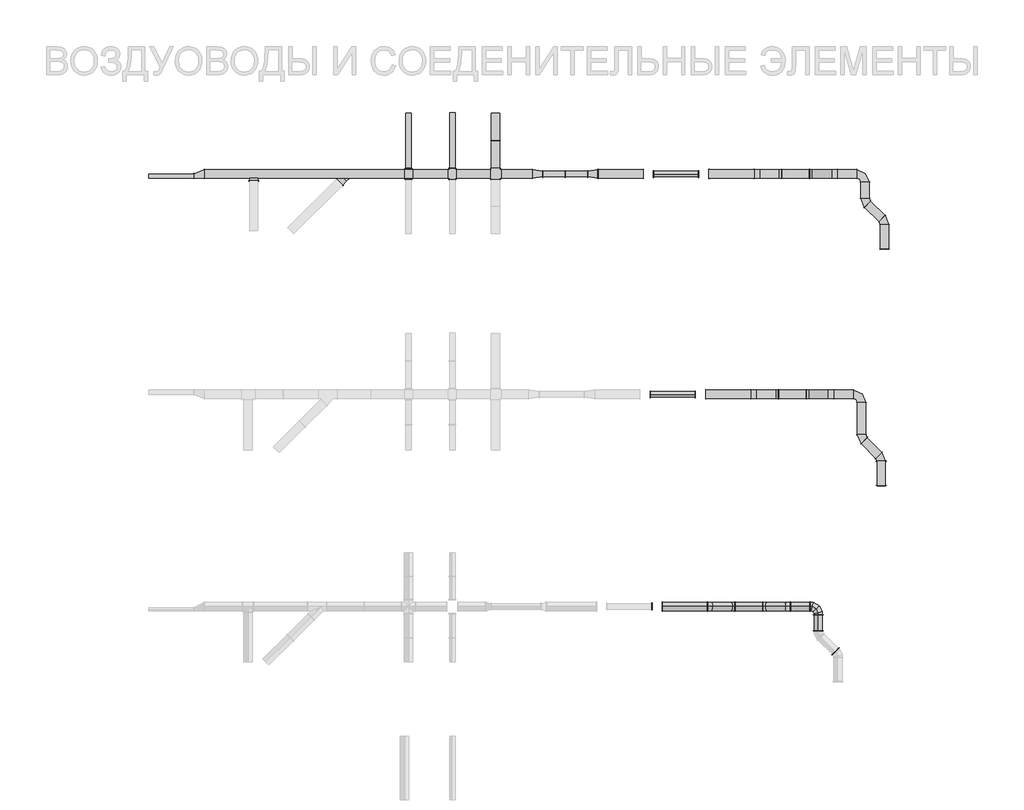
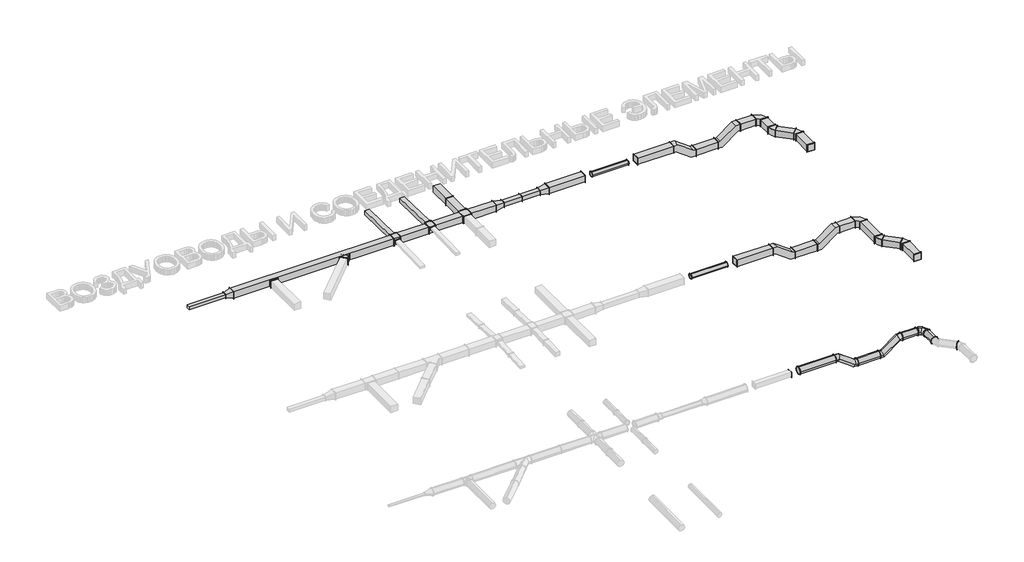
# One storey, part 5 of 8: 84 duct fittings, 30 duct segments.
"""IFC4 building model written with IfcOpenShell, lengths in millimetres."""

from ifc_helpers import new_model, si_unit, point, frame, frame_2d, origin, place, context, project, spatial, polyline, circle_curve, trimmed, segment, composite_curve, outline, extrude, transform, mapped, element, save
from components import duct_fitting_9e6904b6, duct_fitting_1adb4846, duct_fitting_28c7dad8, duct_fitting_2bfe9eff, duct_fitting_69ac1a23, duct_fitting_4595d778, duct_fitting_d50b9d73, duct_fitting_96916f98, duct_fitting_25271141, duct_fitting_49a873c3, duct_fitting_baa2d342, duct_fitting_626d83c1, duct_fitting_618da153, duct_fitting_db13525b, duct_fitting_09fa4591, duct_fitting_5eff2181, duct_fitting_5b7d299d, duct_fitting_46974226, duct_fitting_a26a523e, duct_fitting_8ec2bed2, duct_fitting_57fa9806, duct_fitting_0dfde639, duct_fitting_0a7cc2d9, duct_fitting_0375d318

model = new_model("IFC4")

# Units and contexts
model_context = context("Model", 3, world=origin())
ifc_project = project(units=[si_unit("LENGTHUNIT", "METRE", prefix="MILLI")], contexts=[model_context])

# Site, building, storey
site = spatial("IfcSite", under=ifc_project)
building = spatial("IfcBuilding", under=site)
storey = spatial("IfcBuildingStorey", under=building, Name="Уровень 1", Elevation=0.0)

# Duct fittings
placement = place(None, origin())
duct_fitting_shape = duct_fitting_9e6904b6(model_context)
element("IfcDuctFitting", 1, ObjectType="BL_ПереходникВоздуховодов_Прямоугольный : BL_ПереходникВоздуховодов_Прямоугольный", at=placement, inside=storey, context=model_context, shape_type="MappedRepresentation", body=[
    mapped(duct_fitting_shape, transform((-48040.6087126, 32524.2969276, 1050.0), x_axis=(-1.0, 0.0, 0.0), y_axis=(0.0, -1.0, 0.0), z_axis=(0.0, 0.0, 1.0))),
])
duct_fitting_2_shape = duct_fitting_1adb4846(model_context)
element("IfcDuctFitting", 2, ObjectType="BL_КрестовинаВоздуховодов_Прямоугольная : BL_КрестовинаВоздуховодов_Прямоугольная", at=placement, inside=storey, context=model_context, shape_type="MappedRepresentation", body=[
    mapped(duct_fitting_2_shape, transform((-40674.0705642, 32524.2969276, 1050.0), x_axis=(1.0, 0.0, 0.0), y_axis=(0.0, 1.0, 0.0), z_axis=(0.0, 0.0, 1.0))),
])
duct_fitting_3_shape = duct_fitting_28c7dad8(model_context)
element("IfcDuctFitting", 3, ObjectType="BL_КрестовинаВоздуховодов_Прямоугольная : BL_КрестовинаВоздуховодов_Прямоугольная", at=placement, inside=storey, context=model_context, shape_type="MappedRepresentation", body=[
    mapped(duct_fitting_3_shape, transform((-37531.6491772, 32524.2969276, 1050.0), x_axis=(0.0, 1.0, 0.0), y_axis=(-1.0, 0.0, 0.0), z_axis=(0.0, 0.0, 1.0))),
])
duct_fitting_4_shape = duct_fitting_2bfe9eff(model_context)
element("IfcDuctFitting", 4, ObjectType="BL_КрестовинаВоздуховодов_Прямоугольная : BL_КрестовинаВоздуховодов_Прямоугольная", at=placement, inside=storey, context=model_context, shape_type="MappedRepresentation", body=[
    mapped(duct_fitting_4_shape, transform((-39094.0705642, 32524.2969276, 1050.0), x_axis=(1.0, 0.0, 0.0), y_axis=(0.0, 1.0, 0.0), z_axis=(0.0, 0.0, 1.0))),
])
duct_fitting_5_shape = duct_fitting_69ac1a23(model_context)
element("IfcDuctFitting", 5, ObjectType="BL_ВрезкаВоздуховодов_Прямоугольная : BL_ВрезкаВоздуховодов_Прямоугольная", at=placement, inside=storey, context=model_context, shape_type="MappedRepresentation", body=[
    mapped(duct_fitting_5_shape, transform((-46254.213598, 32374.2969276, 1050.0), x_axis=(0.0, -1.0, 0.0), y_axis=(-1.0, 0.0, 0.0), z_axis=(0.0, 0.0, -1.0))),
])
duct_fitting_6_shape = duct_fitting_4595d778(model_context)
element("IfcDuctFitting", 6, ObjectType="BL_ВрезкаВоздуховодов_Прямоугольная : BL_ВрезкаВоздуховодов_Прямоугольная", at=placement, inside=storey, context=model_context, shape_type="MappedRepresentation", body=[
    mapped(duct_fitting_6_shape, transform((-43017.9107695, 32374.2969276, 1050.0), x_axis=(-0.7071067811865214, -0.7071067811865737, 0.0), y_axis=(-0.7071067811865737, 0.7071067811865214, 0.0), z_axis=(0.0, 0.0, -1.0))),
])
duct_fitting_7_shape = duct_fitting_d50b9d73(model_context)
element("IfcDuctFitting", 7, ObjectType="BL_ПереходникВоздуховодов_Прямоугольный : BL_ПереходникВоздуховодов_Прямоугольный", at=placement, inside=storey, context=model_context, shape_type="MappedRepresentation", body=[
    mapped(duct_fitting_7_shape, transform((-36211.6491772, 32524.2969276, 1050.0), x_axis=(1.0, 0.0, 0.0), y_axis=(0.0, 1.0, 0.0), z_axis=(0.0, 0.0, 1.0))),
])
duct_fitting_8_shape = duct_fitting_96916f98(model_context)
element("IfcDuctFitting", 8, ObjectType="BL_ПереходникВоздуховодов_Прямоугольный : BL_ПереходникВоздуховодов_Прямоугольный", at=placement, inside=storey, context=model_context, shape_type="MappedRepresentation", body=[
    mapped(duct_fitting_8_shape, transform((-34211.6491772, 32524.2969276, 1050.0), x_axis=(1.0, 0.0, 0.0), y_axis=(0.0, 1.0, 0.0), z_axis=(0.0, 0.0, 1.0))),
])
duct_fitting_9_shape = duct_fitting_25271141(model_context)
element("IfcDuctFitting", 9, ObjectType="BL_ФланецВоздуховдов-Двойной_Прямоугольный : BL_ФланецВоздуховдов-Двойной_Прямоугольный", at=placement, inside=storey, context=model_context, shape_type="MappedRepresentation", body=[
    mapped(duct_fitting_9_shape, transform((-37485.9749543, 33724.2969276, 1050.0), x_axis=(0.0, -1.0, 0.0), y_axis=(1.0, 0.0, 0.0), z_axis=(0.0, 0.0, 1.0))),
])
duct_fitting_10_shape = duct_fitting_49a873c3(model_context)
element("IfcDuctFitting", 10, ObjectType="BL_ФланецВоздуховдов-Двойной_Прямоугольный : BL_ФланецВоздуховдов-Двойной_Прямоугольный", at=placement, inside=storey, context=model_context, shape_type="MappedRepresentation", body=[
    mapped(duct_fitting_10_shape, transform((-35024.1491772, 32478.6227046, 1050.0), x_axis=(-1.0, 0.0, 0.0), y_axis=(0.0, -1.0, 0.0), z_axis=(0.0, 0.0, 1.0))),
])
duct_fitting_11_shape = duct_fitting_baa2d342(model_context)
element("IfcDuctFitting", 11, ObjectType="BL_УткаВоздуховодов_Прямоугольная : BL_УткаВоздуховодов_Прямоугольная", at=placement, inside=storey, context=model_context, shape_type="MappedRepresentation", body=[
    mapped(duct_fitting_11_shape, transform((-28211.6491772, 32524.2969276, 1050.0), x_axis=(1.0, 0.0, 0.0), y_axis=(0.0, 1.0, 0.0), z_axis=(0.0, 0.0, 1.0))),
])
element("IfcDuctFitting", 12, ObjectType="BL_УткаВоздуховодов_Прямоугольная : BL_УткаВоздуховодов_Прямоугольная", at=placement, inside=storey, context=model_context, shape_type="MappedRepresentation", body=[
    mapped(duct_fitting_11_shape, transform((-28331.6491772, 24570.0855378, 1050.0), x_axis=(1.0, 0.0, 0.0), y_axis=(0.0, 1.0, 0.0), z_axis=(0.0, 0.0, 1.0))),
])
duct_fitting_12_shape = duct_fitting_626d83c1(model_context)
element("IfcDuctFitting", 13, ObjectType="BL_УткаВоздуховодов_Прямоугольная : BL_УткаВоздуховодов_Прямоугольная", at=placement, inside=storey, context=model_context, shape_type="MappedRepresentation", body=[
    mapped(duct_fitting_12_shape, transform((-25211.6532539, 32524.2969276, 1050.0), x_axis=(-1.0, 0.0, 0.0), y_axis=(0.0, -1.0, 0.0), z_axis=(0.0, 0.0, 1.0))),
])
element("IfcDuctFitting", 14, ObjectType="BL_УткаВоздуховодов_Прямоугольная : BL_УткаВоздуховодов_Прямоугольная", at=placement, inside=storey, context=model_context, shape_type="MappedRepresentation", body=[
    mapped(duct_fitting_12_shape, transform((-25331.6532539, 24570.0855378, 1050.0), x_axis=(-1.0, 0.0, 0.0), y_axis=(0.0, -1.0, 0.0), z_axis=(0.0, 0.0, 1.0))),
])
duct_fitting_13_shape = duct_fitting_618da153(model_context)
element("IfcDuctFitting", 15, ObjectType="BL_ОтводВоздуховодов_Прямоугольный : BL_ОтводВоздуховодов_Прямоугольный", at=placement, inside=storey, context=model_context, shape_type="MappedRepresentation", body=[
    mapped(duct_fitting_13_shape, transform((-24211.6532539, 32524.2969276, 1050.0), x_axis=(0.0, 1.0, 0.0), y_axis=(-1.0, 0.0, 0.0), z_axis=(0.0, 0.0, 1.0))),
])
element("IfcDuctFitting", 16, ObjectType="BL_ОтводВоздуховодов_Прямоугольный : BL_ОтводВоздуховодов_Прямоугольный", at=placement, inside=storey, context=model_context, shape_type="MappedRepresentation", body=[
    mapped(duct_fitting_13_shape, transform((-24331.6532539, 24570.0855378, 1050.0), x_axis=(0.0, 1.0, 0.0), y_axis=(-1.0, 0.0, 0.0), z_axis=(0.0, 0.0, 1.0))),
])
duct_fitting_14_shape = duct_fitting_db13525b(model_context)
element("IfcDuctFitting", 17, ObjectType="BL_ОтводВоздуховодов_Прямоугольный : BL_ОтводВоздуховодов_Прямоугольный", at=placement, inside=storey, context=model_context, shape_type="MappedRepresentation", body=[
    mapped(duct_fitting_14_shape, transform((-24211.6532539, 31524.2969276, 1050.0), x_axis=(0.0, -1.0, 0.0), y_axis=(1.0, 0.0, 0.0), z_axis=(0.0, 0.0, 1.0))),
])
element("IfcDuctFitting", 18, ObjectType="BL_ОтводВоздуховодов_Прямоугольный : BL_ОтводВоздуховодов_Прямоугольный", at=placement, inside=storey, context=model_context, shape_type="MappedRepresentation", body=[
    mapped(duct_fitting_14_shape, transform((-23504.5464727, 30817.1901464, 1050.0), x_axis=(0.0, 1.0, 0.0), y_axis=(-1.0, 0.0, 0.0), z_axis=(0.0, 0.0, 1.0))),
])
element("IfcDuctFitting", 19, ObjectType="BL_ОтводВоздуховодов_Прямоугольный : BL_ОтводВоздуховодов_Прямоугольный", at=placement, inside=storey, context=model_context, shape_type="MappedRepresentation", body=[
    mapped(duct_fitting_14_shape, transform((-24331.6532539, 22988.9723402, 1050.0), x_axis=(0.0, -1.0, 0.0), y_axis=(1.0, 0.0, 0.0), z_axis=(0.0, 0.0, 1.0))),
])
element("IfcDuctFitting", 20, ObjectType="BL_ОтводВоздуховодов_Прямоугольный : BL_ОтводВоздуховодов_Прямоугольный", at=placement, inside=storey, context=model_context, shape_type="MappedRepresentation", body=[
    mapped(duct_fitting_14_shape, transform((-23624.5464727, 22281.865559, 1050.0), x_axis=(0.0, 1.0, 0.0), y_axis=(-1.0, 0.0, 0.0), z_axis=(0.0, 0.0, 1.0))),
])
duct_fitting_15_shape = duct_fitting_09fa4591(model_context)
element("IfcDuctFitting", 21, ObjectType="BL_ЗаглушкаВоздуховодов_Прямоугольная : BL_ЗаглушкаВоздуховодов_Прямоугольная", at=placement, inside=storey, context=model_context, shape_type="MappedRepresentation", body=[
    mapped(duct_fitting_15_shape, transform((-23504.5464727, 29817.1901464, 1050.0), x_axis=(0.0, -1.0, 0.0), y_axis=(1.0, 0.0, 0.0), z_axis=(0.0, 0.0, 1.0))),
])
element("IfcDuctFitting", 22, ObjectType="BL_ЗаглушкаВоздуховодов_Прямоугольная : BL_ЗаглушкаВоздуховодов_Прямоугольная", at=placement, inside=storey, context=model_context, shape_type="MappedRepresentation", body=[
    mapped(duct_fitting_15_shape, transform((-23624.5464727, 21281.865559, 1050.0), x_axis=(0.0, -1.0, 0.0), y_axis=(1.0, 0.0, 0.0), z_axis=(0.0, 0.0, 1.0))),
])
duct_fitting_16_shape = duct_fitting_5eff2181(model_context)
element("IfcDuctFitting", 23, ObjectType="BL_УткаВоздуховодов_Круглая : Фланцевое соединение", at=placement, inside=storey, context=model_context, shape_type="MappedRepresentation", body=[
    mapped(duct_fitting_16_shape, transform((-29894.0705642, 16911.2474283, 1050.0), x_axis=(1.0, 0.0, 0.0), y_axis=(0.0, 1.0, 0.0), z_axis=(0.0, 0.0, 1.0))),
])
duct_fitting_17_shape = duct_fitting_5b7d299d(model_context)
element("IfcDuctFitting", 24, ObjectType="BL_УткаВоздуховодов_Круглая : Фланцевое соединение", at=placement, inside=storey, context=model_context, shape_type="MappedRepresentation", body=[
    mapped(duct_fitting_17_shape, transform((-26894.0705642, 16911.2474283, 1050.0), x_axis=(-1.0, 0.0, 0.0), y_axis=(0.0, -1.0, 0.0), z_axis=(0.0, 0.0, 1.0))),
])
duct_fitting_18_shape = duct_fitting_46974226(model_context)
element("IfcDuctFitting", 25, ObjectType="BL_ОтводВоздуховодов_Круглый : Фланцевое соединение", at=placement, inside=storey, context=model_context, shape_type="MappedRepresentation", body=[
    mapped(duct_fitting_18_shape, transform((-25894.0705642, 16911.2474283, 1050.0), x_axis=(0.0, 1.0, 0.0), y_axis=(-1.0, 0.0, 0.0), z_axis=(0.0, 0.0, 1.0))),
])
duct_fitting_19_shape = duct_fitting_a26a523e(model_context)
element("IfcDuctFitting", 26, ObjectType="BL_ФланецВоздуховдов-Двойной_Круглый_БезКоннекторов : BL_ФланецВоздуховдов-Двойной_Круглый_БезКоннекторов", at=placement, inside=storey, context=model_context, shape_type="MappedRepresentation", body=[
    mapped(duct_fitting_19_shape, transform((-31836.6491772, 32569.9711505, 1050.0), x_axis=(1.0, 0.0, 0.0), y_axis=(0.0, 1.0, 0.0), z_axis=(0.0, 0.0, 1.0))),
])
element("IfcDuctFitting", 27, ObjectType="BL_ФланецВоздуховдов-Двойной_Круглый_БезКоннекторов : BL_ФланецВоздуховдов-Двойной_Круглый_БезКоннекторов", at=placement, inside=storey, context=model_context, shape_type="MappedRepresentation", body=[
    mapped(duct_fitting_19_shape, transform((-30211.6491772, 32478.6227046, 1050.0), x_axis=(-1.0, 0.0, 0.0), y_axis=(0.0, -1.0, 0.0), z_axis=(0.0, 0.0, 1.0))),
])
element("IfcDuctFitting", 28, ObjectType="BL_ФланецВоздуховдов-Двойной_Круглый_БезКоннекторов : BL_ФланецВоздуховдов-Двойной_Круглый_БезКоннекторов", at=placement, inside=storey, context=model_context, shape_type="MappedRepresentation", body=[
    mapped(duct_fitting_19_shape, transform((-31956.6491772, 24615.7597607, 1050.0), x_axis=(1.0, 0.0, 0.0), y_axis=(0.0, 1.0, 0.0), z_axis=(0.0, 0.0, 1.0))),
])
element("IfcDuctFitting", 29, ObjectType="BL_ФланецВоздуховдов-Двойной_Круглый_БезКоннекторов : BL_ФланецВоздуховдов-Двойной_Круглый_БезКоннекторов", at=placement, inside=storey, context=model_context, shape_type="MappedRepresentation", body=[
    mapped(duct_fitting_19_shape, transform((-30331.6491772, 24524.4113148, 1050.0), x_axis=(-1.0, 0.0, 0.0), y_axis=(0.0, -1.0, 0.0), z_axis=(0.0, 0.0, 1.0))),
])
duct_fitting_20_shape = duct_fitting_8ec2bed2(model_context)
element("IfcDuctFitting", 30, ObjectType="BL_ФланецВоздуховдов-Двойной_Круглый_БезКоннекторов : BL_ФланецВоздуховдов-Двойной_Круглый_БезКоннекторов", at=placement, inside=storey, context=model_context, shape_type="MappedRepresentation", body=[
    mapped(duct_fitting_20_shape, transform((-31519.0705642, 16956.9216512, 1050.0), x_axis=(1.0, 0.0, 0.0), y_axis=(0.0, 1.0, 0.0), z_axis=(0.0, 0.0, 1.0))),
])
element("IfcDuctFitting", 31, ObjectType="BL_ФланецВоздуховдов-Двойной_Круглый_БезКоннекторов : BL_ФланецВоздуховдов-Двойной_Круглый_БезКоннекторов", at=placement, inside=storey, context=model_context, shape_type="MappedRepresentation", body=[
    mapped(duct_fitting_20_shape, transform((-29894.0705642, 16956.9216512, 1050.0), x_axis=(1.0, 0.0, 0.0), y_axis=(0.0, 1.0, 0.0), z_axis=(0.0, 0.0, 1.0))),
])
element("IfcDuctFitting", 32, ObjectType="BL_ФланецВоздуховдов-Двойной_Круглый_БезКоннекторов : BL_ФланецВоздуховдов-Двойной_Круглый_БезКоннекторов", at=placement, inside=storey, context=model_context, shape_type="MappedRepresentation", body=[
    mapped(duct_fitting_20_shape, transform((-28894.0705642, 16956.9216512, 544.886411), x_axis=(1.0, 0.0, 0.0), y_axis=(0.0, 1.0, 0.0), z_axis=(0.0, 0.0, 1.0))),
])
element("IfcDuctFitting", 33, ObjectType="BL_ФланецВоздуховдов-Двойной_Круглый_БезКоннекторов : BL_ФланецВоздуховдов-Двойной_Круглый_БезКоннекторов", at=placement, inside=storey, context=model_context, shape_type="MappedRepresentation", body=[
    mapped(duct_fitting_20_shape, transform((-25939.7447871, 16611.2474283, 1050.0), x_axis=(0.0, 1.0, 0.0), y_axis=(-1.0, 0.0, 0.0), z_axis=(0.0, 0.0, 1.0))),
])
element("IfcDuctFitting", 34, ObjectType="BL_ФланецВоздуховдов-Двойной_Круглый_БезКоннекторов : BL_ФланецВоздуховдов-Двойной_Круглый_БезКоннекторов", at=placement, inside=storey, context=model_context, shape_type="MappedRepresentation", body=[
    mapped(duct_fitting_20_shape, transform((-26194.0705642, 16865.5732053, 1050.0), x_axis=(-1.0000000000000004, 0.0, 0.0), y_axis=(0.0, -1.0000000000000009, 0.0), z_axis=(0.0, 0.0, 1.0000000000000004))),
])
element("IfcDuctFitting", 35, ObjectType="BL_ФланецВоздуховдов-Двойной_Круглый_БезКоннекторов : BL_ФланецВоздуховдов-Двойной_Круглый_БезКоннекторов", at=placement, inside=storey, context=model_context, shape_type="MappedRepresentation", body=[
    mapped(duct_fitting_20_shape, transform((-25848.3963412, 16035.511497, 1050.0), x_axis=(0.0, -1.0, 0.0), y_axis=(1.0, 0.0, 0.0), z_axis=(0.0, 0.0, 1.0))),
])
element("IfcDuctFitting", 36, ObjectType="BL_ФланецВоздуховдов-Двойной_Круглый_БезКоннекторов : BL_ФланецВоздуховдов-Двойной_Круглый_БезКоннекторов", at=placement, inside=storey, context=model_context, shape_type="MappedRepresentation", body=[
    mapped(duct_fitting_20_shape, transform((-25307.1283014, 15259.71206, 1050.0), x_axis=(-0.7071067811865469, 0.707106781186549, 0.0), y_axis=(-0.7071067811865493, -0.7071067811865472, 0.0), z_axis=(0.0, 0.0, 1.0000000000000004))),
])
duct_fitting_21_shape = duct_fitting_57fa9806(model_context)
element("IfcDuctFitting", 37, ObjectType="BL_ФланецВоздуховдов-Двойной_Круглый_БезКоннекторов : BL_ФланецВоздуховдов-Двойной_Круглый_БезКоннекторов", at=placement, inside=storey, context=model_context, shape_type="MappedRepresentation", body=[
    mapped(duct_fitting_21_shape, transform((-26894.0705642, 16956.9216512, 1050.0), x_axis=(-1.0, 0.0, 0.0), y_axis=(0.0, -1.0, 0.0), z_axis=(0.0, 0.0, 1.0))),
])
element("IfcDuctFitting", 38, ObjectType="BL_ФланецВоздуховдов-Двойной_Круглый_БезКоннекторов : BL_ФланецВоздуховдов-Двойной_Круглый_БезКоннекторов", at=placement, inside=storey, context=model_context, shape_type="MappedRepresentation", body=[
    mapped(duct_fitting_21_shape, transform((-27894.0705642, 16956.9216512, 544.886411), x_axis=(-1.0, 0.0, 0.0), y_axis=(0.0, -1.0, 0.0), z_axis=(0.0, 0.0, 1.0))),
])
element("IfcDuctFitting", 39, ObjectType="BL_ФланецВоздуховдов-Двойной_Прямоугольный_БезКоннекторов : BL_ФланецВоздуховдов-Двойной_Прямоугольный_БезКоннекторов", at=placement, inside=storey, context=model_context, shape_type="MappedRepresentation", body=[
    mapped(duct_fitting_9_shape, transform((-37577.3234002, 32724.2969276, 1050.0), x_axis=(0.0, 1.0, 0.0), y_axis=(-1.0, 0.0, 0.0), z_axis=(0.0, 0.0, 1.0))),
])
element("IfcDuctFitting", 40, ObjectType="BL_ФланецВоздуховдов-Двойной_Прямоугольный_БезКоннекторов : BL_ФланецВоздуховдов-Двойной_Прямоугольный_БезКоннекторов", at=placement, inside=storey, context=model_context, shape_type="MappedRepresentation", body=[
    mapped(duct_fitting_9_shape, transform((-37577.3234002, 32324.2969276, 1050.0), x_axis=(0.0, 1.0, 0.0), y_axis=(-1.0, 0.0, 0.0), z_axis=(0.0, 0.0, 1.0))),
])
element("IfcDuctFitting", 41, ObjectType="BL_ФланецВоздуховдов-Двойной_Прямоугольный_БезКоннекторов : BL_ФланецВоздуховдов-Двойной_Прямоугольный_БезКоннекторов", at=placement, inside=storey, context=model_context, shape_type="MappedRepresentation", body=[
    mapped(duct_fitting_9_shape, transform((-37731.6491772, 32569.9711505, 1050.0), x_axis=(1.0, 0.0, 0.0), y_axis=(0.0, 1.0, 0.0), z_axis=(0.0, 0.0, 1.0))),
])
element("IfcDuctFitting", 42, ObjectType="BL_ФланецВоздуховдов-Двойной_Прямоугольный_БезКоннекторов : BL_ФланецВоздуховдов-Двойной_Прямоугольный_БезКоннекторов", at=placement, inside=storey, context=model_context, shape_type="MappedRepresentation", body=[
    mapped(duct_fitting_9_shape, transform((-37331.6491772, 32478.6227046, 1050.0), x_axis=(-1.0, 0.0, 0.0), y_axis=(0.0, -1.0, 0.0), z_axis=(0.0, 0.0, 1.0))),
])
element("IfcDuctFitting", 43, ObjectType="BL_ФланецВоздуховдов-Двойной_Прямоугольный_БезКоннекторов : BL_ФланецВоздуховдов-Двойной_Прямоугольный_БезКоннекторов", at=placement, inside=storey, context=model_context, shape_type="MappedRepresentation", body=[
    mapped(duct_fitting_9_shape, transform((-36211.6491772, 32569.9711505, 1050.0), x_axis=(1.0, 0.0, 0.0), y_axis=(0.0, 1.0, 0.0), z_axis=(0.0, 0.0, 1.0))),
])
element("IfcDuctFitting", 44, ObjectType="BL_ФланецВоздуховдов-Двойной_Прямоугольный_БезКоннекторов : BL_ФланецВоздуховдов-Двойной_Прямоугольный_БезКоннекторов", at=placement, inside=storey, context=model_context, shape_type="MappedRepresentation", body=[
    mapped(duct_fitting_9_shape, transform((-33836.6491772, 32569.9711505, 1050.0), x_axis=(1.0, 0.0, 0.0), y_axis=(0.0, 1.0, 0.0), z_axis=(0.0, 0.0, 1.0))),
])
element("IfcDuctFitting", 45, ObjectType="BL_ФланецВоздуховдов-Двойной_Прямоугольный_БезКоннекторов : BL_ФланецВоздуховдов-Двойной_Прямоугольный_БезКоннекторов", at=placement, inside=storey, context=model_context, shape_type="MappedRepresentation", body=[
    mapped(duct_fitting_9_shape, transform((-32211.6491772, 32569.9711505, 1050.0), x_axis=(1.0, 0.0, 0.0), y_axis=(0.0, 1.0, 0.0), z_axis=(0.0, 0.0, 1.0))),
])
element("IfcDuctFitting", 46, ObjectType="BL_ФланецВоздуховдов-Двойной_Прямоугольный_БезКоннекторов : BL_ФланецВоздуховдов-Двойной_Прямоугольный_БезКоннекторов", at=placement, inside=storey, context=model_context, shape_type="MappedRepresentation", body=[
    mapped(duct_fitting_9_shape, transform((-29836.6491772, 32478.6227046, 1050.0), x_axis=(-1.0, 0.0, 0.0), y_axis=(0.0, -1.0, 0.0), z_axis=(0.0, 0.0, 1.0))),
])
element("IfcDuctFitting", 47, ObjectType="BL_ФланецВоздуховдов-Двойной_Прямоугольный_БезКоннекторов : BL_ФланецВоздуховдов-Двойной_Прямоугольный_БезКоннекторов", at=placement, inside=storey, context=model_context, shape_type="MappedRepresentation", body=[
    mapped(duct_fitting_9_shape, transform((-28211.6491772, 32569.9711505, 1050.0), x_axis=(1.0, 0.0, 0.0), y_axis=(0.0, 1.0, 0.0), z_axis=(0.0, 0.0, 1.0))),
])
element("IfcDuctFitting", 48, ObjectType="BL_ФланецВоздуховдов-Двойной_Прямоугольный_БезКоннекторов : BL_ФланецВоздуховдов-Двойной_Прямоугольный_БезКоннекторов", at=placement, inside=storey, context=model_context, shape_type="MappedRepresentation", body=[
    mapped(duct_fitting_9_shape, transform((-27211.6491772, 32569.9711505, 544.886411), x_axis=(1.0, 0.0, 0.0), y_axis=(0.0, 1.0, 0.0), z_axis=(0.0, 0.0, 1.0))),
])
element("IfcDuctFitting", 49, ObjectType="BL_ФланецВоздуховдов-Двойной_Прямоугольный_БезКоннекторов : BL_ФланецВоздуховдов-Двойной_Прямоугольный_БезКоннекторов", at=placement, inside=storey, context=model_context, shape_type="MappedRepresentation", body=[
    mapped(duct_fitting_9_shape, transform((-24257.3274769, 32224.2969276, 1050.0), x_axis=(0.0, 1.0, 0.0), y_axis=(-1.0, 0.0, 0.0), z_axis=(0.0, 0.0, 1.0))),
])
element("IfcDuctFitting", 50, ObjectType="BL_ФланецВоздуховдов-Двойной_Прямоугольный_БезКоннекторов : BL_ФланецВоздуховдов-Двойной_Прямоугольный_БезКоннекторов", at=placement, inside=storey, context=model_context, shape_type="MappedRepresentation", body=[
    mapped(duct_fitting_9_shape, transform((-24511.6532539, 32478.6227046, 1050.0), x_axis=(-1.0000000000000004, 0.0, 0.0), y_axis=(0.0, -1.0000000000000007, 0.0), z_axis=(0.0, 0.0, 1.0000000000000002))),
])
element("IfcDuctFitting", 51, ObjectType="BL_ФланецВоздуховдов-Двойной_Прямоугольный_БезКоннекторов : BL_ФланецВоздуховдов-Двойной_Прямоугольный_БезКоннекторов", at=placement, inside=storey, context=model_context, shape_type="MappedRepresentation", body=[
    mapped(duct_fitting_9_shape, transform((-24165.979031, 31648.5609963, 1050.0), x_axis=(0.0, -1.0, 0.0), y_axis=(1.0, 0.0, 0.0), z_axis=(0.0, 0.0, 1.0))),
])
element("IfcDuctFitting", 52, ObjectType="BL_ФланецВоздуховдов-Двойной_Прямоугольный_БезКоннекторов : BL_ФланецВоздуховдов-Двойной_Прямоугольный_БезКоннекторов", at=placement, inside=storey, context=model_context, shape_type="MappedRepresentation", body=[
    mapped(duct_fitting_9_shape, transform((-24091.4887355, 31468.7255147, 1050.0), x_axis=(0.7071067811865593, -0.707106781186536, 0.0), y_axis=(0.707106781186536, 0.7071067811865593, 0.0), z_axis=(0.0, 0.0, 1.0))),
])
element("IfcDuctFitting", 53, ObjectType="BL_ФланецВоздуховдов-Двойной_Прямоугольный_БезКоннекторов : BL_ФланецВоздуховдов-Двойной_Прямоугольный_БезКоннекторов", at=placement, inside=storey, context=model_context, shape_type="MappedRepresentation", body=[
    mapped(duct_fitting_9_shape, transform((-23550.2206957, 30692.9260777, 1050.0), x_axis=(0.0, 1.0, 0.0), y_axis=(-1.0, 0.0, 0.0), z_axis=(0.0, 0.0, 1.0))),
])
element("IfcDuctFitting", 54, ObjectType="BL_ФланецВоздуховдов-Двойной_Прямоугольный_БезКоннекторов : BL_ФланецВоздуховдов-Двойной_Прямоугольный_БезКоннекторов", at=placement, inside=storey, context=model_context, shape_type="MappedRepresentation", body=[
    mapped(duct_fitting_9_shape, transform((-23624.7109912, 30872.7615592, 1050.0), x_axis=(-0.7071067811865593, 0.707106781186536, 0.0), y_axis=(-0.707106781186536, -0.7071067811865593, 0.0), z_axis=(0.0, 0.0, 1.0))),
])
element("IfcDuctFitting", 55, ObjectType="BL_ФланецВоздуховдов-Двойной_Прямоугольный_БезКоннекторов : BL_ФланецВоздуховдов-Двойной_Прямоугольный_БезКоннекторов", at=placement, inside=storey, context=model_context, shape_type="MappedRepresentation", body=[
    mapped(duct_fitting_9_shape, transform((-23458.8722498, 29817.1901464, 1050.0), x_axis=(0.0, -1.0, 0.0), y_axis=(1.0, 0.0, 0.0), z_axis=(0.0, 0.0, 1.0))),
])
element("IfcDuctFitting", 56, ObjectType="BL_ФланецВоздуховдов-Двойной_Прямоугольный_БезКоннекторов : BL_ФланецВоздуховдов-Двойной_Прямоугольный_БезКоннекторов", at=placement, inside=storey, context=model_context, shape_type="MappedRepresentation", body=[
    mapped(duct_fitting_9_shape, transform((-38944.0705642, 32569.9711505, 1050.0), x_axis=(1.0, 0.0, 0.0), y_axis=(0.0, 1.0, 0.0), z_axis=(0.0, 0.0, 1.0))),
])
element("IfcDuctFitting", 57, ObjectType="BL_ФланецВоздуховдов-Двойной_Прямоугольный_БезКоннекторов : BL_ФланецВоздуховдов-Двойной_Прямоугольный_БезКоннекторов", at=placement, inside=storey, context=model_context, shape_type="MappedRepresentation", body=[
    mapped(duct_fitting_9_shape, transform((-39244.0705642, 32569.9711505, 1050.0), x_axis=(1.0, 0.0, 0.0), y_axis=(0.0, 1.0, 0.0), z_axis=(0.0, 0.0, 1.0))),
])
element("IfcDuctFitting", 58, ObjectType="BL_ФланецВоздуховдов-Двойной_Прямоугольный_БезКоннекторов : BL_ФланецВоздуховдов-Двойной_Прямоугольный_БезКоннекторов", at=placement, inside=storey, context=model_context, shape_type="MappedRepresentation", body=[
    mapped(duct_fitting_9_shape, transform((-40524.0705642, 32569.9711505, 1050.0), x_axis=(1.0, 0.0, 0.0), y_axis=(0.0, 1.0, 0.0), z_axis=(0.0, 0.0, 1.0))),
])
element("IfcDuctFitting", 59, ObjectType="BL_ФланецВоздуховдов-Двойной_Прямоугольный_БезКоннекторов : BL_ФланецВоздуховдов-Двойной_Прямоугольный_БезКоннекторов", at=placement, inside=storey, context=model_context, shape_type="MappedRepresentation", body=[
    mapped(duct_fitting_9_shape, transform((-40824.0705642, 32569.9711505, 1050.0), x_axis=(1.0, 0.0, 0.0), y_axis=(0.0, 1.0, 0.0), z_axis=(0.0, 0.0, 1.0))),
])
element("IfcDuctFitting", 60, ObjectType="BL_ФланецВоздуховдов-Двойной_Прямоугольный_БезКоннекторов : BL_ФланецВоздуховдов-Двойной_Прямоугольный_БезКоннекторов", at=placement, inside=storey, context=model_context, shape_type="MappedRepresentation", body=[
    mapped(duct_fitting_9_shape, transform((-29956.6491772, 24524.4113148, 1050.0), x_axis=(-1.0, 0.0, 0.0), y_axis=(0.0, -1.0, 0.0), z_axis=(0.0, 0.0, 1.0))),
])
element("IfcDuctFitting", 61, ObjectType="BL_ФланецВоздуховдов-Двойной_Прямоугольный_БезКоннекторов : BL_ФланецВоздуховдов-Двойной_Прямоугольный_БезКоннекторов", at=placement, inside=storey, context=model_context, shape_type="MappedRepresentation", body=[
    mapped(duct_fitting_9_shape, transform((-28331.6491772, 24615.7597607, 1050.0), x_axis=(1.0, 0.0, 0.0), y_axis=(0.0, 1.0, 0.0), z_axis=(0.0, 0.0, 1.0))),
])
element("IfcDuctFitting", 62, ObjectType="BL_ФланецВоздуховдов-Двойной_Прямоугольный_БезКоннекторов : BL_ФланецВоздуховдов-Двойной_Прямоугольный_БезКоннекторов", at=placement, inside=storey, context=model_context, shape_type="MappedRepresentation", body=[
    mapped(duct_fitting_9_shape, transform((-27331.6491772, 24615.7597607, 544.886411), x_axis=(1.0, 0.0, 0.0), y_axis=(0.0, 1.0, 0.0), z_axis=(0.0, 0.0, 1.0))),
])
element("IfcDuctFitting", 63, ObjectType="BL_ФланецВоздуховдов-Двойной_Прямоугольный_БезКоннекторов : BL_ФланецВоздуховдов-Двойной_Прямоугольный_БезКоннекторов", at=placement, inside=storey, context=model_context, shape_type="MappedRepresentation", body=[
    mapped(duct_fitting_9_shape, transform((-24377.3274769, 24270.0855378, 1050.0), x_axis=(0.0, 1.0, 0.0), y_axis=(-1.0, 0.0, 0.0), z_axis=(0.0, 0.0, 1.0))),
])
element("IfcDuctFitting", 64, ObjectType="BL_ФланецВоздуховдов-Двойной_Прямоугольный_БезКоннекторов : BL_ФланецВоздуховдов-Двойной_Прямоугольный_БезКоннекторов", at=placement, inside=storey, context=model_context, shape_type="MappedRepresentation", body=[
    mapped(duct_fitting_9_shape, transform((-24631.6532539, 24524.4113148, 1050.0), x_axis=(-1.0000000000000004, 0.0, 0.0), y_axis=(0.0, -1.0000000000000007, 0.0), z_axis=(0.0, 0.0, 1.0000000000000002))),
])
element("IfcDuctFitting", 65, ObjectType="BL_ФланецВоздуховдов-Двойной_Прямоугольный_БезКоннекторов : BL_ФланецВоздуховдов-Двойной_Прямоугольный_БезКоннекторов", at=placement, inside=storey, context=model_context, shape_type="MappedRepresentation", body=[
    mapped(duct_fitting_9_shape, transform((-24285.979031, 23113.2364089, 1050.0), x_axis=(0.0, -1.0, 0.0), y_axis=(1.0, 0.0, 0.0), z_axis=(0.0, 0.0, 1.0))),
])
element("IfcDuctFitting", 66, ObjectType="BL_ФланецВоздуховдов-Двойной_Прямоугольный_БезКоннекторов : BL_ФланецВоздуховдов-Двойной_Прямоугольный_БезКоннекторов", at=placement, inside=storey, context=model_context, shape_type="MappedRepresentation", body=[
    mapped(duct_fitting_9_shape, transform((-24211.4887355, 22933.4009274, 1050.0), x_axis=(0.7071067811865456, -0.7071067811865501, 0.0), y_axis=(0.7071067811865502, 0.7071067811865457, 0.0), z_axis=(0.0, 0.0, 1.0000000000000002))),
])
element("IfcDuctFitting", 67, ObjectType="BL_ФланецВоздуховдов-Двойной_Прямоугольный_БезКоннекторов : BL_ФланецВоздуховдов-Двойной_Прямоугольный_БезКоннекторов", at=placement, inside=storey, context=model_context, shape_type="MappedRepresentation", body=[
    mapped(duct_fitting_9_shape, transform((-23670.2206957, 22157.6014903, 1050.0), x_axis=(0.0, 1.0, 0.0), y_axis=(-1.0, 0.0, 0.0), z_axis=(0.0, 0.0, 1.0))),
])
element("IfcDuctFitting", 68, ObjectType="BL_ФланецВоздуховдов-Двойной_Прямоугольный_БезКоннекторов : BL_ФланецВоздуховдов-Двойной_Прямоугольный_БезКоннекторов", at=placement, inside=storey, context=model_context, shape_type="MappedRepresentation", body=[
    mapped(duct_fitting_9_shape, transform((-23744.7109912, 22337.4369719, 1050.0), x_axis=(-0.7071067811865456, 0.7071067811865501, 0.0), y_axis=(-0.7071067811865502, -0.7071067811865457, 0.0), z_axis=(0.0, 0.0, 1.0000000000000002))),
])
element("IfcDuctFitting", 69, ObjectType="BL_ФланецВоздуховдов-Двойной_Прямоугольный_БезКоннекторов : BL_ФланецВоздуховдов-Двойной_Прямоугольный_БезКоннекторов", at=placement, inside=storey, context=model_context, shape_type="MappedRepresentation", body=[
    mapped(duct_fitting_9_shape, transform((-23578.8722498, 21281.865559, 1050.0), x_axis=(0.0, -1.0, 0.0), y_axis=(1.0, 0.0, 0.0), z_axis=(0.0, 0.0, 1.0))),
])
element("IfcDuctFitting", 70, ObjectType="BL_ФланецВоздуховдов-Двойной_Прямоугольный_БезКоннекторов : BL_ФланецВоздуховдов-Двойной_Прямоугольный_БезКоннекторов", at=placement, inside=storey, context=model_context, shape_type="MappedRepresentation", body=[
    mapped(duct_fitting_9_shape, transform((-48040.6087126, 32478.6227046, 1050.0), x_axis=(-1.0, 0.0, 0.0), y_axis=(0.0, -1.0, 0.0), z_axis=(0.0, 0.0, 1.0))),
])
element("IfcDuctFitting", 71, ObjectType="BL_ФланецВоздуховдов-Двойной_Прямоугольный_БезКоннекторов : BL_ФланецВоздуховдов-Двойной_Прямоугольный_БезКоннекторов", at=placement, inside=storey, context=model_context, shape_type="MappedRepresentation", body=[
    mapped(duct_fitting_10_shape, transform((-35836.6491772, 32569.9711505, 1050.0), x_axis=(1.0, 0.0, 0.0), y_axis=(0.0, 1.0, 0.0), z_axis=(0.0, 0.0, 1.0))),
])
element("IfcDuctFitting", 72, ObjectType="BL_ФланецВоздуховдов-Двойной_Прямоугольный_БезКоннекторов : BL_ФланецВоздуховдов-Двойной_Прямоугольный_БезКоннекторов", at=placement, inside=storey, context=model_context, shape_type="MappedRepresentation", body=[
    mapped(duct_fitting_10_shape, transform((-34211.6491772, 32569.9711505, 1050.0), x_axis=(1.0, 0.0, 0.0), y_axis=(0.0, 1.0, 0.0), z_axis=(0.0, 0.0, 1.0))),
])
element("IfcDuctFitting", 73, ObjectType="BL_ФланецВоздуховдов-Двойной_Прямоугольный_БезКоннекторов : BL_ФланецВоздуховдов-Двойной_Прямоугольный_БезКоннекторов", at=placement, inside=storey, context=model_context, shape_type="MappedRepresentation", body=[
    mapped(duct_fitting_10_shape, transform((-39048.3963412, 32724.2969276, 1100.0), x_axis=(0.0, -1.0, 0.0), y_axis=(1.0, 0.0, 0.0), z_axis=(0.0, 0.0, 1.0))),
])
element("IfcDuctFitting", 74, ObjectType="BL_ФланецВоздуховдов-Двойной_Прямоугольный_БезКоннекторов : BL_ФланецВоздуховдов-Двойной_Прямоугольный_БезКоннекторов", at=placement, inside=storey, context=model_context, shape_type="MappedRepresentation", body=[
    mapped(duct_fitting_10_shape, transform((-40628.3963412, 32724.2969276, 1050.0), x_axis=(0.0, -1.0, 0.0), y_axis=(1.0, 0.0, 0.0), z_axis=(0.0, 0.0, 1.0))),
])
element("IfcDuctFitting", 75, ObjectType="BL_ФланецВоздуховдов-Двойной_Прямоугольный_БезКоннекторов : BL_ФланецВоздуховдов-Двойной_Прямоугольный_БезКоннекторов", at=placement, inside=storey, context=model_context, shape_type="MappedRepresentation", body=[
    mapped(duct_fitting_10_shape, transform((-31894.0705642, 16956.9216512, 1050.0), x_axis=(1.0, 0.0, 0.0), y_axis=(0.0, 1.0, 0.0), z_axis=(0.0, 0.0, 1.0))),
])
duct_fitting_22_shape = duct_fitting_0dfde639(model_context)
element("IfcDuctFitting", 76, ObjectType="BL_ФланецВоздуховдов-Двойной_Прямоугольный_БезКоннекторов : BL_ФланецВоздуховдов-Двойной_Прямоугольный_БезКоннекторов", at=placement, inside=storey, context=model_context, shape_type="MappedRepresentation", body=[
    mapped(duct_fitting_22_shape, transform((-25211.6532539, 32569.9711505, 1050.0), x_axis=(-1.0, 0.0, 0.0), y_axis=(0.0, -1.0, 0.0), z_axis=(0.0, 0.0, 1.0))),
])
element("IfcDuctFitting", 77, ObjectType="BL_ФланецВоздуховдов-Двойной_Прямоугольный_БезКоннекторов : BL_ФланецВоздуховдов-Двойной_Прямоугольный_БезКоннекторов", at=placement, inside=storey, context=model_context, shape_type="MappedRepresentation", body=[
    mapped(duct_fitting_22_shape, transform((-26211.6532539, 32569.9711505, 544.886411), x_axis=(-1.0, 0.0, 0.0), y_axis=(0.0, -1.0, 0.0), z_axis=(0.0, 0.0, 1.0))),
])
element("IfcDuctFitting", 78, ObjectType="BL_ФланецВоздуховдов-Двойной_Прямоугольный_БезКоннекторов : BL_ФланецВоздуховдов-Двойной_Прямоугольный_БезКоннекторов", at=placement, inside=storey, context=model_context, shape_type="MappedRepresentation", body=[
    mapped(duct_fitting_22_shape, transform((-25331.6532539, 24615.7597607, 1050.0), x_axis=(-1.0, 0.0, 0.0), y_axis=(0.0, -1.0, 0.0), z_axis=(0.0, 0.0, 1.0))),
])
element("IfcDuctFitting", 79, ObjectType="BL_ФланецВоздуховдов-Двойной_Прямоугольный_БезКоннекторов : BL_ФланецВоздуховдов-Двойной_Прямоугольный_БезКоннекторов", at=placement, inside=storey, context=model_context, shape_type="MappedRepresentation", body=[
    mapped(duct_fitting_22_shape, transform((-26331.6532539, 24615.7597607, 544.886411), x_axis=(-1.0, 0.0, 0.0), y_axis=(0.0, -1.0, 0.0), z_axis=(0.0, 0.0, 1.0))),
])
element("IfcDuctFitting", 80, ObjectType="BL_ФланецВоздуховдов-Двойной_Прямоугольный_БезКоннекторов : BL_ФланецВоздуховдов-Двойной_Прямоугольный_БезКоннекторов", at=placement, inside=storey, context=model_context, shape_type="MappedRepresentation", body=[
    mapped(duct_fitting_22_shape, transform((-46208.539375, 32274.2969276, 1050.0), x_axis=(0.0, -1.0, 0.0), y_axis=(-1.0, 0.0, 0.0), z_axis=(0.0, 0.0, -1.0))),
])
element("IfcDuctFitting", 81, ObjectType="BL_ФланецВоздуховдов-Двойной_Прямоугольный_БезКоннекторов : BL_ФланецВоздуховдов-Двойной_Прямоугольный_БезКоннекторов", at=placement, inside=storey, context=model_context, shape_type="MappedRepresentation", body=[
    mapped(duct_fitting_22_shape, transform((-43127.0355729, 32200.5790185, 1050.0), x_axis=(-0.7071067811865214, -0.7071067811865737, 0.0), y_axis=(-0.7071067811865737, 0.7071067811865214, 0.0), z_axis=(0.0, 0.0, -1.0))),
])
duct_fitting_23_shape = duct_fitting_0a7cc2d9(model_context)
element("IfcDuctFitting", 82, ObjectType="BL_ФланецВоздуховдов-Двойной_Прямоугольный_БезКоннекторов : BL_ФланецВоздуховдов-Двойной_Прямоугольный_БезКоннекторов", at=placement, inside=storey, context=model_context, shape_type="MappedRepresentation", body=[
    mapped(duct_fitting_23_shape, transform((-39139.7447871, 32324.2969276, 1150.0), x_axis=(0.0, 1.0, 0.0), y_axis=(-1.0, 0.0, 0.0), z_axis=(0.0, 0.0, 1.0))),
])
element("IfcDuctFitting", 83, ObjectType="BL_ФланецВоздуховдов-Двойной_Прямоугольный_БезКоннекторов : BL_ФланецВоздуховдов-Двойной_Прямоугольный_БезКоннекторов", at=placement, inside=storey, context=model_context, shape_type="MappedRepresentation", body=[
    mapped(duct_fitting_23_shape, transform((-40719.7447871, 32324.2969276, 1080.0), x_axis=(0.0, 1.0, 0.0), y_axis=(-1.0, 0.0, 0.0), z_axis=(0.0, 0.0, 1.0))),
])
duct_fitting_24_shape = duct_fitting_0375d318(model_context)
element("IfcDuctFitting", 84, ObjectType="BL_ФланецВоздуховдов-Двойной_Прямоугольный_БезКоннекторов : BL_ФланецВоздуховдов-Двойной_Прямоугольный_БезКоннекторов", at=placement, inside=storey, context=model_context, shape_type="MappedRepresentation", body=[
    mapped(duct_fitting_24_shape, transform((-48415.6087126, 32403.6227046, 1125.0), x_axis=(-1.0, 0.0, 0.0), y_axis=(0.0, -1.0, 0.0), z_axis=(0.0, 0.0, 1.0))),
])

# Duct segments
element("IfcDuctSegment", 85, ObjectType="BL_Воздуховод прямоугольного сечения_Врезки_Фланцевое соединение", at=placement, inside=storey, context=model_context, shape_type="SweptSolid", body=[
    extrude(outline(polyline([(-37331.6491772, 32374.2969276), (-37331.6491772, 32674.2969276), (-36211.6491772, 32674.2969276), (-36211.6491772, 32374.2969276), (-37331.6491772, 32374.2969276)])), frame((0.0, 0.0, 900.0), z_axis=(0.0, 0.0, 1.0), x_axis=(1.0, 0.0, 0.0)), (0.0, 0.0, 1.0), 300.0),
])
element("IfcDuctSegment", 86, ObjectType="BL_Воздуховод прямоугольного сечения_Врезки_Фланцевое соединение", at=placement, inside=storey, context=model_context, shape_type="SweptSolid", body=[
    extrude(outline(polyline([(-37381.6491772, 33725.2969276), (-37681.6491772, 33725.2969276), (-37681.6491772, 34724.2969276), (-37381.6491772, 34724.2969276), (-37381.6491772, 33725.2969276)])), frame((0.0, 0.0, 900.0), z_axis=(0.0, 0.0, 1.0), x_axis=(1.0, 0.0, 0.0)), (0.0, 0.0, 1.0), 300.0),
])
element("IfcDuctSegment", 87, ObjectType="BL_Воздуховод прямоугольного сечения_Врезки_Фланцевое соединение", at=placement, inside=storey, context=model_context, shape_type="SweptSolid", body=[
    extrude(outline(polyline([(-38944.0705642, 32374.2969276), (-38944.0705642, 32674.2969276), (-37731.6491772, 32674.2969276), (-37731.6491772, 32374.2969276), (-38944.0705642, 32374.2969276)])), frame((0.0, 0.0, 900.0), z_axis=(0.0, 0.0, 1.0), x_axis=(1.0, 0.0, 0.0)), (0.0, 0.0, 1.0), 300.0),
])
element("IfcDuctSegment", 88, ObjectType="BL_Воздуховод прямоугольного сечения_Врезки_Фланцевое соединение", at=placement, inside=storey, context=model_context, shape_type="SweptSolid", body=[
    extrude(outline(polyline([(-35023.1491772, 32424.2969276), (-35023.1491772, 32624.2969276), (-34211.6491772, 32624.2969276), (-34211.6491772, 32424.2969276), (-35023.1491772, 32424.2969276)])), frame((0.0, 0.0, 950.0), z_axis=(0.0, 0.0, 1.0), x_axis=(1.0, 0.0, 0.0)), (0.0, 0.0, 1.0), 200.0),
])
element("IfcDuctSegment", 89, ObjectType="BL_Воздуховод прямоугольного сечения_Врезки_Фланцевое соединение", at=placement, inside=storey, context=model_context, shape_type="SweptSolid", body=[
    extrude(outline(polyline([(-33836.6491772, 32374.2969276), (-33836.6491772, 32674.2969276), (-32211.6491772, 32674.2969276), (-32211.6491772, 32374.2969276), (-33836.6491772, 32374.2969276)])), frame((0.0, 0.0, 900.0), z_axis=(0.0, 0.0, 1.0), x_axis=(1.0, 0.0, 0.0)), (0.0, 0.0, 1.0), 300.0),
])
element("IfcDuctSegment", 90, ObjectType="BL_Воздуховод круглого сечения_Тройники_Фланцевое соединение", at=placement, inside=storey, context=model_context, shape_type="SweptSolid", body=[
    extrude(outline(composite_curve([segment(trimmed(circle_curve(frame_2d((32524.2969276, 1050.0)), 100.0), [point((32424.2969276, 1050.0))], [point((32524.2969276, 1150.0))], False, "CARTESIAN"), True, "CONTINUOUS"), segment(trimmed(circle_curve(frame_2d((32524.2969276, 1050.0)), 100.0), [point((32524.2969276, 1150.0))], [point((32624.2969276, 1050.0))], False, "CARTESIAN"), True, "CONTINUOUS"), segment(trimmed(circle_curve(frame_2d((32524.2969276, 1050.0)), 100.0), [point((32624.2969276, 1050.0))], [point((32524.2969276, 950.0))], False, "CARTESIAN"), True, "CONTINUOUS"), segment(trimmed(circle_curve(frame_2d((32524.2969276, 1050.0)), 100.0), [point((32524.2969276, 950.0))], [point((32424.2969276, 1050.0))], False, "CARTESIAN"), True, "CONTINUOUS")], self_intersect=False)), frame((-31836.6491772, 0.0, 0.0), z_axis=(1.0, 0.0, 0.0), x_axis=(0.0, 1.0, 0.0)), (0.0, 0.0, 1.0), 1625.0),
])
element("IfcDuctSegment", 91, ObjectType="BL_Воздуховод прямоугольного сечения_Врезки_Фланцевое соединение", at=placement, inside=storey, context=model_context, shape_type="SweptSolid", body=[
    extrude(outline(polyline([(-29836.6491772, 32374.2969276), (-29836.6491772, 32674.2969276), (-28211.6491772, 32674.2969276), (-28211.6491772, 32374.2969276), (-29836.6491772, 32374.2969276)])), frame((0.0, 0.0, 900.0), z_axis=(0.0, 0.0, 1.0), x_axis=(1.0, 0.0, 0.0)), (0.0, 0.0, 1.0), 300.0),
])
element("IfcDuctSegment", 92, ObjectType="BL_Воздуховод прямоугольного сечения_Врезки_Фланцевое соединение", at=placement, inside=storey, context=model_context, shape_type="SweptSolid", body=[
    extrude(outline(polyline([(0.0, -300.0), (0.0, 0.0), (1000.0000001, 0.0), (1000.0000001, -300.0), (0.0, -300.0)])), frame((-27211.6471389, 32674.2969276, 394.886411), z_axis=(-1.3588985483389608e-05, 0.0, 0.9999999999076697), x_axis=(0.9999999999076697, 0.0, 1.3588985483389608e-05)), (0.0, 0.0, 1.0), 300.0),
])
element("IfcDuctSegment", 93, ObjectType="BL_Воздуховод прямоугольного сечения_Врезки_Фланцевое соединение", at=placement, inside=storey, context=model_context, shape_type="SweptSolid", body=[
    extrude(outline(polyline([(-25211.6532539, 32374.2969276), (-25211.6532539, 32674.2969276), (-24511.6532539, 32674.2969276), (-24511.6532539, 32374.2969276), (-25211.6532539, 32374.2969276)])), frame((0.0, 0.0, 900.0), z_axis=(0.0, 0.0, 1.0), x_axis=(1.0, 0.0, 0.0)), (0.0, 0.0, 1.0), 300.0),
])
element("IfcDuctSegment", 94, ObjectType="BL_Воздуховод прямоугольного сечения_Врезки_Фланцевое соединение", at=placement, inside=storey, context=model_context, shape_type="SweptSolid", body=[
    extrude(outline(polyline([(-24361.6532539, 32224.2969276), (-24061.6532539, 32224.2969276), (-24061.6532539, 31648.5609963), (-24361.6532539, 31648.5609963), (-24361.6532539, 32224.2969276)])), frame((0.0, 0.0, 900.0), z_axis=(0.0, 0.0, 1.0), x_axis=(1.0, 0.0, 0.0)), (0.0, 0.0, 1.0), 300.0),
])
element("IfcDuctSegment", 95, ObjectType="BL_Воздуховод прямоугольного сечения_Врезки_Фланцевое соединение", at=placement, inside=storey, context=model_context, shape_type="SweptSolid", body=[
    extrude(outline(polyline([(-24229.8513055, 31330.3629447), (-24017.7192711, 31542.4949791), (-23486.3484212, 31011.1241292), (-23698.4804556, 30798.9920948), (-24229.8513055, 31330.3629447)])), frame((0.0, 0.0, 900.0), z_axis=(0.0, 0.0, 1.0), x_axis=(1.0, 0.0, 0.0)), (0.0, 0.0, 1.0), 300.0),
])
element("IfcDuctSegment", 96, ObjectType="BL_Воздуховод прямоугольного сечения_Врезки_Фланцевое соединение", at=placement, inside=storey, context=model_context, shape_type="SweptSolid", body=[
    extrude(outline(polyline([(-23654.5464727, 30692.9260777), (-23354.5464727, 30692.9260777), (-23354.5464727, 29817.1901464), (-23654.5464727, 29817.1901464), (-23654.5464727, 30692.9260777)])), frame((0.0, 0.0, 900.0), z_axis=(0.0, 0.0, 1.0), x_axis=(1.0, 0.0, 0.0)), (0.0, 0.0, 1.0), 300.0),
])
element("IfcDuctSegment", 97, ObjectType="BL_Воздуховод прямоугольного сечения_Врезки_Фланцевое соединение", at=placement, inside=storey, context=model_context, shape_type="SweptSolid", body=[
    extrude(outline(polyline([(-35836.6491772, 32424.2969276), (-35836.6491772, 32624.2969276), (-35025.1491772, 32624.2969276), (-35025.1491772, 32424.2969276), (-35836.6491772, 32424.2969276)])), frame((0.0, 0.0, 950.0), z_axis=(0.0, 0.0, 1.0), x_axis=(1.0, 0.0, 0.0)), (0.0, 0.0, 1.0), 200.0),
])
element("IfcDuctSegment", 98, ObjectType="BL_Воздуховод прямоугольного сечения_Врезки_Фланцевое соединение", at=placement, inside=storey, context=model_context, shape_type="SweptSolid", body=[
    extrude(outline(polyline([(-37381.6491772, 32724.2969276), (-37681.6491772, 32724.2969276), (-37681.6491772, 33723.2969276), (-37381.6491772, 33723.2969276), (-37381.6491772, 32724.2969276)])), frame((0.0, 0.0, 900.0), z_axis=(0.0, 0.0, 1.0), x_axis=(1.0, 0.0, 0.0)), (0.0, 0.0, 1.0), 300.0),
])
element("IfcDuctSegment", 99, ObjectType="BL_Воздуховод прямоугольного сечения_Врезки_Фланцевое соединение", at=placement, inside=storey, context=model_context, shape_type="SweptSolid", body=[
    extrude(outline(polyline([(0.0, -200.0), (0.0, 0.0), (2000.6249024, 0.0), (2000.6249024, -200.0), (0.0, -200.0)])), frame((-38994.0705642, 34721.7977084, 950.0312354), z_axis=(0.0, 0.02499219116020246, 0.9996876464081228), x_axis=(0.0, -0.9996876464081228, 0.02499219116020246)), (0.0, 0.0, 1.0), 200.0),
])
element("IfcDuctSegment", 100, ObjectType="BL_Воздуховод прямоугольного сечения_Врезки_Фланцевое соединение", at=placement, inside=storey, context=model_context, shape_type="SweptSolid", body=[
    extrude(outline(polyline([(-40824.0705642, 32674.2969276), (-40824.0705642, 32374.2969276), (-48040.6087126, 32374.2969276), (-48040.6087126, 32674.2969276), (-40824.0705642, 32674.2969276)])), frame((0.0, 0.0, 900.0), z_axis=(0.0, 0.0, 1.0), x_axis=(1.0, 0.0, 0.0)), (0.0, 0.0, 1.0), 300.0),
])
element("IfcDuctSegment", 101, ObjectType="BL_Воздуховод прямоугольного сечения_Врезки_Фланцевое соединение", at=placement, inside=storey, context=model_context, shape_type="SweptSolid", body=[
    extrude(outline(polyline([(0.0, -200.0), (0.0, 0.0), (1999.3752929, 0.0), (1999.3752929, -200.0), (0.0, -200.0)])), frame((-40574.0705642, 34720.5484892, 900.0624658), z_axis=(0.0, 0.024992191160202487, 0.9996876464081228), x_axis=(0.0, -0.9996876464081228, 0.024992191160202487)), (0.0, 0.0, 1.0), 200.0),
])
element("IfcDuctSegment", 102, ObjectType="BL_Воздуховод прямоугольного сечения_Врезки_Фланцевое соединение", at=placement, inside=storey, context=model_context, shape_type="SweptSolid", body=[
    extrude(outline(polyline([(-39244.0705642, 32674.2969276), (-39244.0705642, 32374.2969276), (-40524.0705642, 32374.2969276), (-40524.0705642, 32674.2969276), (-39244.0705642, 32674.2969276)])), frame((0.0, 0.0, 900.0), z_axis=(0.0, 0.0, 1.0), x_axis=(1.0, 0.0, 0.0)), (0.0, 0.0, 1.0), 300.0),
])
element("IfcDuctSegment", 103, ObjectType="BL_Воздуховод круглого сечения_Тройники_Фланцевое соединение", at=placement, inside=storey, context=model_context, shape_type="SweptSolid", body=[
    extrude(outline(composite_curve([segment(trimmed(circle_curve(frame_2d((24570.0855378, 1050.0)), 100.0), [point((24470.0855378, 1050.0))], [point((24570.0855378, 1150.0))], False, "CARTESIAN"), True, "CONTINUOUS"), segment(trimmed(circle_curve(frame_2d((24570.0855378, 1050.0)), 100.0), [point((24570.0855378, 1150.0))], [point((24670.0855378, 1050.0))], False, "CARTESIAN"), True, "CONTINUOUS"), segment(trimmed(circle_curve(frame_2d((24570.0855378, 1050.0)), 100.0), [point((24670.0855378, 1050.0))], [point((24570.0855378, 950.0))], False, "CARTESIAN"), True, "CONTINUOUS"), segment(trimmed(circle_curve(frame_2d((24570.0855378, 1050.0)), 100.0), [point((24570.0855378, 950.0))], [point((24470.0855378, 1050.0))], False, "CARTESIAN"), True, "CONTINUOUS")], self_intersect=False)), frame((-31956.6491772, 0.0, 0.0), z_axis=(1.0, 0.0, 0.0), x_axis=(0.0, 1.0, 0.0)), (0.0, 0.0, 1.0), 1625.0),
])
element("IfcDuctSegment", 104, ObjectType="BL_Воздуховод прямоугольного сечения_Тройники_Фланцевое соединение", at=placement, inside=storey, context=model_context, shape_type="SweptSolid", body=[
    extrude(outline(polyline([(-29956.6491772, 24420.0855378), (-29956.6491772, 24720.0855378), (-28331.6491772, 24720.0855378), (-28331.6491772, 24420.0855378), (-29956.6491772, 24420.0855378)])), frame((0.0, 0.0, 900.0), z_axis=(0.0, 0.0, 1.0), x_axis=(1.0, 0.0, 0.0)), (0.0, 0.0, 1.0), 300.0),
])
element("IfcDuctSegment", 105, ObjectType="BL_Воздуховод прямоугольного сечения_Тройники_Фланцевое соединение", at=placement, inside=storey, context=model_context, shape_type="SweptSolid", body=[
    extrude(outline(polyline([(-26331.6532539, 24720.0855378), (-26331.6532539, 24420.0855378), (-27331.6491772, 24420.0855378), (-27331.6491772, 24720.0855378), (-26331.6532539, 24720.0855378)])), frame((0.0, 0.0, 394.886411), z_axis=(0.0, 0.0, 1.0), x_axis=(1.0, 0.0, 0.0)), (0.0, 0.0, 1.0), 300.0),
])
element("IfcDuctSegment", 106, ObjectType="BL_Воздуховод прямоугольного сечения_Тройники_Фланцевое соединение", at=placement, inside=storey, context=model_context, shape_type="SweptSolid", body=[
    extrude(outline(polyline([(-25331.6532539, 24420.0855378), (-25331.6532539, 24720.0855378), (-24631.6532539, 24720.0855378), (-24631.6532539, 24420.0855378), (-25331.6532539, 24420.0855378)])), frame((0.0, 0.0, 900.0), z_axis=(0.0, 0.0, 1.0), x_axis=(1.0, 0.0, 0.0)), (0.0, 0.0, 1.0), 300.0),
])
element("IfcDuctSegment", 107, ObjectType="BL_Воздуховод прямоугольного сечения_Тройники_Фланцевое соединение", at=placement, inside=storey, context=model_context, shape_type="SweptSolid", body=[
    extrude(outline(polyline([(-24481.6532539, 24270.0855378), (-24181.6532539, 24270.0855378), (-24181.6532539, 23113.2364089), (-24481.6532539, 23113.2364089), (-24481.6532539, 24270.0855378)])), frame((0.0, 0.0, 900.0), z_axis=(0.0, 0.0, 1.0), x_axis=(1.0, 0.0, 0.0)), (0.0, 0.0, 1.0), 300.0),
])
element("IfcDuctSegment", 108, ObjectType="BL_Воздуховод прямоугольного сечения_Тройники_Фланцевое соединение", at=placement, inside=storey, context=model_context, shape_type="SweptSolid", body=[
    extrude(outline(polyline([(-24349.8513055, 22795.0383574), (-24137.7192711, 23007.1703918), (-23606.3484212, 22475.7995419), (-23818.4804556, 22263.6675075), (-24349.8513055, 22795.0383574)])), frame((0.0, 0.0, 900.0), z_axis=(0.0, 0.0, 1.0), x_axis=(1.0, 0.0, 0.0)), (0.0, 0.0, 1.0), 300.0),
])
element("IfcDuctSegment", 109, ObjectType="BL_Воздуховод прямоугольного сечения_Тройники_Фланцевое соединение", at=placement, inside=storey, context=model_context, shape_type="SweptSolid", body=[
    extrude(outline(polyline([(-23774.5464727, 22157.6014903), (-23474.5464727, 22157.6014903), (-23474.5464727, 21281.865559), (-23774.5464727, 21281.865559), (-23774.5464727, 22157.6014903)])), frame((0.0, 0.0, 900.0), z_axis=(0.0, 0.0, 1.0), x_axis=(1.0, 0.0, 0.0)), (0.0, 0.0, 1.0), 300.0),
])
element("IfcDuctSegment", 110, ObjectType="BL_Воздуховод круглого сечения_Тройники_Фланцевое соединение", at=placement, inside=storey, context=model_context, shape_type="SweptSolid", body=[
    extrude(outline(composite_curve([segment(trimmed(circle_curve(frame_2d((16911.2474283, 1050.0)), 150.0), [point((16761.2474283, 1050.0))], [point((16911.2474283, 1200.0))], False, "CARTESIAN"), True, "CONTINUOUS"), segment(trimmed(circle_curve(frame_2d((16911.2474283, 1050.0)), 150.0), [point((16911.2474283, 1200.0))], [point((17061.2474283, 1050.0))], False, "CARTESIAN"), True, "CONTINUOUS"), segment(trimmed(circle_curve(frame_2d((16911.2474283, 1050.0)), 150.0), [point((17061.2474283, 1050.0))], [point((16911.2474283, 900.0))], False, "CARTESIAN"), True, "CONTINUOUS"), segment(trimmed(circle_curve(frame_2d((16911.2474283, 1050.0)), 150.0), [point((16911.2474283, 900.0))], [point((16761.2474283, 1050.0))], False, "CARTESIAN"), True, "CONTINUOUS")], self_intersect=False)), frame((-31519.0705642, 0.0, 0.0), z_axis=(1.0, 0.0, 0.0), x_axis=(0.0, 1.0, 0.0)), (0.0, 0.0, 1.0), 1625.0),
])
element("IfcDuctSegment", 111, ObjectType="BL_Воздуховод круглого сечения_Тройники_Фланцевое соединение", at=placement, inside=storey, context=model_context, shape_type="SweptSolid", body=[
    extrude(outline(composite_curve([segment(trimmed(circle_curve(frame_2d((0.0, 150.0)), 150.0), [point((-150.0, 150.0))], [point((0.0, 300.0))], False, "CARTESIAN"), True, "CONTINUOUS"), segment(trimmed(circle_curve(frame_2d((0.0, 150.0)), 150.0), [point((0.0, 300.0))], [point((150.0, 150.0))], False, "CARTESIAN"), True, "CONTINUOUS"), segment(trimmed(circle_curve(frame_2d((0.0, 150.0)), 150.0), [point((150.0, 150.0))], [point((0.0, 0.0))], False, "CARTESIAN"), True, "CONTINUOUS"), segment(trimmed(circle_curve(frame_2d((0.0, 150.0)), 150.0), [point((0.0, 0.0))], [point((-150.0, 150.0))], False, "CARTESIAN"), True, "CONTINUOUS")], self_intersect=False)), frame((-28894.0685258, 16911.2474283, 394.886411), z_axis=(0.9999999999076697, 0.0, 1.3588985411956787e-05), x_axis=(0.0, 1.0, 0.0)), (0.0, 0.0, 1.0), 1000.0000001),
])
element("IfcDuctSegment", 112, ObjectType="BL_Воздуховод круглого сечения_Тройники_Фланцевое соединение", at=placement, inside=storey, context=model_context, shape_type="SweptSolid", body=[
    extrude(outline(composite_curve([segment(trimmed(circle_curve(frame_2d((16911.2474283, 1050.0)), 150.0), [point((16761.2474283, 1050.0))], [point((16911.2474283, 1200.0))], False, "CARTESIAN"), True, "CONTINUOUS"), segment(trimmed(circle_curve(frame_2d((16911.2474283, 1050.0)), 150.0), [point((16911.2474283, 1200.0))], [point((17061.2474283, 1050.0))], False, "CARTESIAN"), True, "CONTINUOUS"), segment(trimmed(circle_curve(frame_2d((16911.2474283, 1050.0)), 150.0), [point((17061.2474283, 1050.0))], [point((16911.2474283, 900.0))], False, "CARTESIAN"), True, "CONTINUOUS"), segment(trimmed(circle_curve(frame_2d((16911.2474283, 1050.0)), 150.0), [point((16911.2474283, 900.0))], [point((16761.2474283, 1050.0))], False, "CARTESIAN"), True, "CONTINUOUS")], self_intersect=False)), frame((-26894.0705642, 0.0, 0.0), z_axis=(1.0, 0.0, 0.0), x_axis=(0.0, 1.0, 0.0)), (0.0, 0.0, 1.0), 700.0),
])
element("IfcDuctSegment", 113, ObjectType="BL_Воздуховод круглого сечения_Тройники_Фланцевое соединение", at=placement, inside=storey, context=model_context, shape_type="SweptSolid", body=[
    extrude(outline(composite_curve([segment(trimmed(circle_curve(frame_2d((1050.0, -25894.0705642)), 150.0), [point((1050.0, -26044.0705642))], [point((900.0, -25894.0705642))], False, "CARTESIAN"), True, "CONTINUOUS"), segment(trimmed(circle_curve(frame_2d((1050.0, -25894.0705642)), 150.0), [point((900.0, -25894.0705642))], [point((1050.0, -25744.0705642))], False, "CARTESIAN"), True, "CONTINUOUS"), segment(trimmed(circle_curve(frame_2d((1050.0, -25894.0705642)), 150.0), [point((1050.0, -25744.0705642))], [point((1200.0, -25894.0705642))], False, "CARTESIAN"), True, "CONTINUOUS"), segment(trimmed(circle_curve(frame_2d((1050.0, -25894.0705642)), 150.0), [point((1200.0, -25894.0705642))], [point((1050.0, -26044.0705642))], False, "CARTESIAN"), True, "CONTINUOUS")], self_intersect=False)), frame((0.0, 16035.511497, 0.0), z_axis=(0.0, 1.0, 0.0), x_axis=(0.0, 0.0, 1.0)), (0.0, 0.0, 1.0), 575.7359313),
])
element("IfcDuctSegment", 114, ObjectType="BL_Воздуховод прямоугольного сечения_Врезки_Фланцевое соединение", at=placement, inside=storey, context=model_context, shape_type="SweptSolid", body=[
    extrude(outline(polyline([(-48415.6087126, 32524.2969276), (-48415.6087126, 32374.2969276), (-50040.6087126, 32374.2969276), (-50040.6087126, 32524.2969276), (-48415.6087126, 32524.2969276)])), frame((0.0, 0.0, 1050.0), z_axis=(0.0, 0.0, 1.0), x_axis=(1.0, 0.0, 0.0)), (0.0, 0.0, 1.0), 150.0),
])

save(model, "model.ifc")
